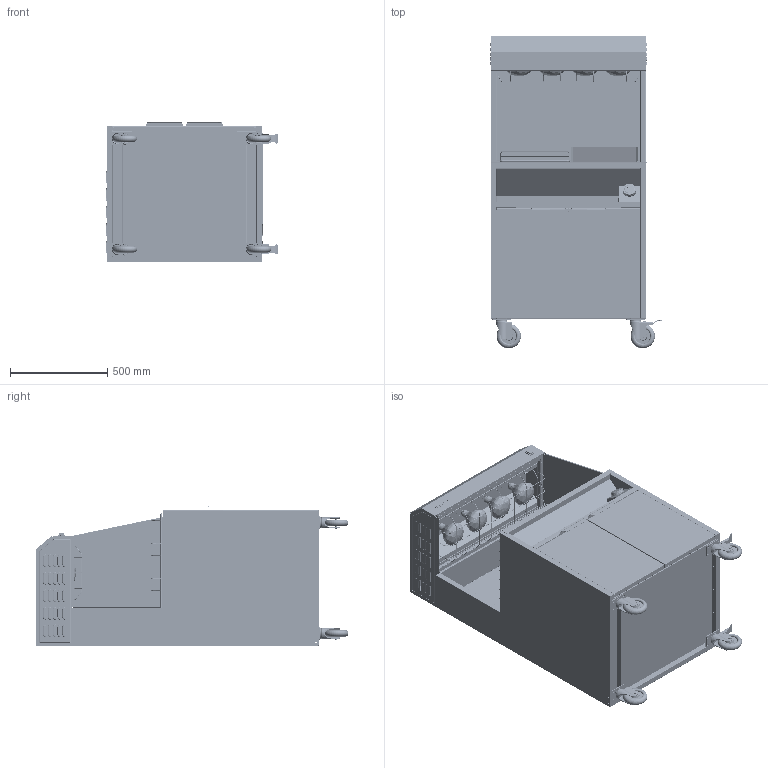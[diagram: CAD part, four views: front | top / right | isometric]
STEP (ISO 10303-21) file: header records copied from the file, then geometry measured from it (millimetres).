
FILE_DESCRIPTION (( 'STEP AP214' ), '1' );
FILE_NAME ('pres-CPDSGM.STEP', '2025-04-23T12:11:25', ( '' ), ( '' ), 'SwSTEP 2.0', 'SolidWorks 2025', '' );
FILE_SCHEMA (( 'AUTOMOTIVE_DESIGN' ));
Length unit declared in the file: millimetre
Products named in the file (1): pres-CPDSGM
Bounding box: 883.17 x 1607.3 x 724.35 mm (x, y, z)
Volume: 13599375 mm3; surface area: 17339659.2 mm2
Topology: 88 solids, 88 shells, 7882 faces, 21242 edges, 13367 vertices
Faces by surface type: plane 3787, cylinder 2797, torus 572, cone 408, bspline 314, sphere 4
Entity records: 354437 total; most frequent: CARTESIAN_POINT 63802, ORIENTED_EDGE 42460, DIRECTION 42032, EDGE_CURVE 21230, AXIS2_PLACEMENT_3D 14524, VERTEX_POINT 13367, VECTOR 12984, LINE 12984
